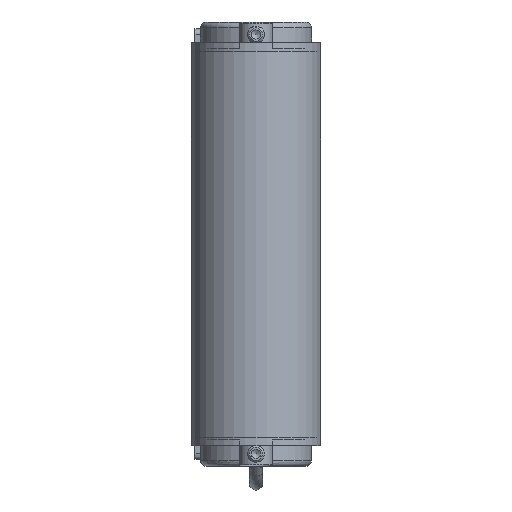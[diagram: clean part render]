
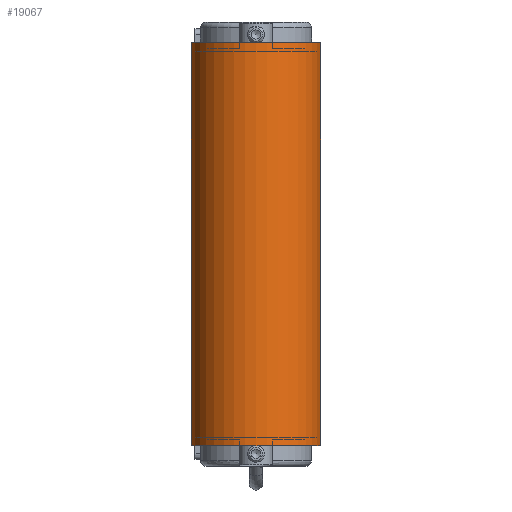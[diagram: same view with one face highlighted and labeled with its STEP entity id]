
A CAD part, front view. The second image highlights one B-rep face of the part: STEP entity #19067.
In plain terms, the highlighted cylindrical face has radius 23.3 mm (diameter 46.6 mm), a partial arc.
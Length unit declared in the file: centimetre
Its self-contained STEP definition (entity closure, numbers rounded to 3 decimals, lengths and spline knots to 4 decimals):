
#547=CYLINDRICAL_SURFACE('',#20419,2.33);
#1206=CIRCLE('',#20414,2.33);
#1209=CIRCLE('',#20420,2.33);
#1995=FACE_OUTER_BOUND('',#3020,.T.);
#3020=EDGE_LOOP('',(#13013,#13014,#13015,#13016));
#4338=LINE('',#28240,#5866);
#4339=LINE('',#28244,#5867);
#5866=VECTOR('',#23143,1.);
#5867=VECTOR('',#23148,1.);
#7604=VERTEX_POINT('',#28223);
#7605=VERTEX_POINT('',#28224);
#7610=VERTEX_POINT('',#28238);
#7611=VERTEX_POINT('',#28242);
#9713=EDGE_CURVE('',#7604,#7605,#1206,.T.);
#9721=EDGE_CURVE('',#7610,#7605,#4338,.T.);
#9722=EDGE_CURVE('',#7610,#7611,#1209,.T.);
#9723=EDGE_CURVE('',#7604,#7611,#4339,.T.);
#13013=ORIENTED_EDGE('',*,*,#9722,.T.);
#13014=ORIENTED_EDGE('',*,*,#9723,.F.);
#13015=ORIENTED_EDGE('',*,*,#9713,.T.);
#13016=ORIENTED_EDGE('',*,*,#9721,.F.);
#19067=ADVANCED_FACE('',(#1995),#547,.T.);
#20414=AXIS2_PLACEMENT_3D('',#28225,#23128,#23129);
#20419=AXIS2_PLACEMENT_3D('',#28241,#23144,#23145);
#20420=AXIS2_PLACEMENT_3D('',#28243,#23146,#23147);
#23128=DIRECTION('center_axis',(0.,0.,
-1.));
#23129=DIRECTION('ref_axis',(-1.,0.,0.));
#23143=DIRECTION('',(0.,0.,1.));
#23144=DIRECTION('center_axis',(0.,0.,
-1.));
#23145=DIRECTION('ref_axis',(-1.,0.,0.));
#23146=DIRECTION('center_axis',(0.,0.,
1.));
#23147=DIRECTION('ref_axis',(-1.,0.,0.));
#23148=DIRECTION('',(0.,0.,-1.));
#28223=CARTESIAN_POINT('',(2.33,-127.,7.25));
#28224=CARTESIAN_POINT('',(-2.33,-127.,7.25));
#28225=CARTESIAN_POINT('Origin',(0.,-127.,
7.25));
#28238=CARTESIAN_POINT('',(-2.33,-127.,-7.25));
#28240=CARTESIAN_POINT('',(-2.33,-127.,0.));
#28241=CARTESIAN_POINT('Origin',(0.,-127.,
0.));
#28242=CARTESIAN_POINT('',(2.33,-127.,-7.25));
#28243=CARTESIAN_POINT('Origin',(0.,-127.,
-7.25));
#28244=CARTESIAN_POINT('',(2.33,-127.,0.));
